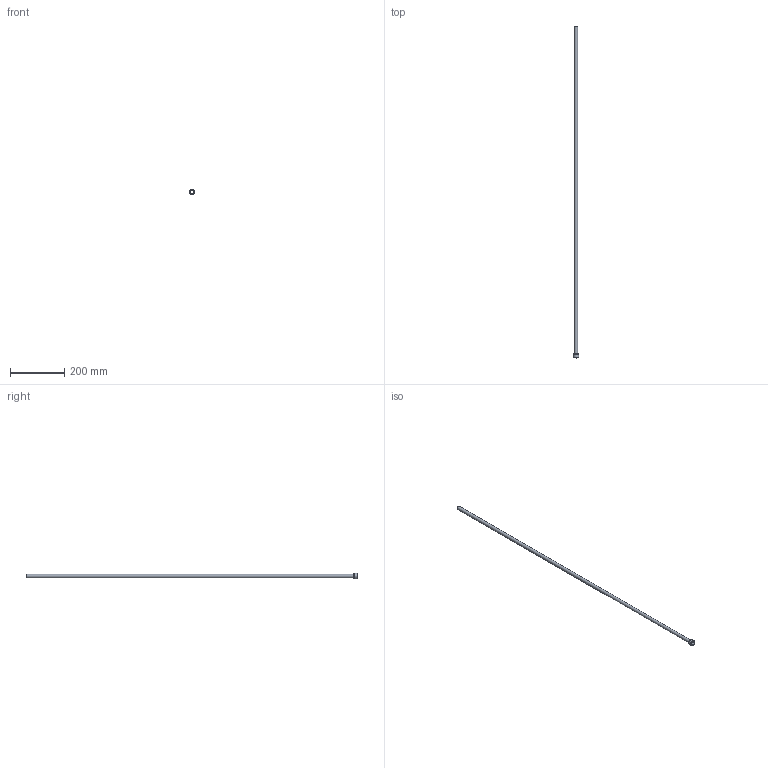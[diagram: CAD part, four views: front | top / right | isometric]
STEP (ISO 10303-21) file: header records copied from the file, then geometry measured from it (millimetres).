
FILE_DESCRIPTION(/* description */ (''),/* implementation_level */ '2;1');
FILE_NAME(/* name */ 'C:/Users/drich/Desktop/PT12-500-48 v2.step',/* time_stamp */ '2019-12-27T14:59:10-06:00',/* author */ (''),/* organization */ (''),/* preprocessor_version */ 'ST-DEVELOPER v18',/* originating_system */ 'Autodesk Translation Framework v8.12.0.6',/* authorisation */ '');
FILE_SCHEMA (('AUTOMOTIVE_DESIGN { 1 0 10303 214 3 1 1 }'));
Length unit declared in the file: inch
Products named in the file (1): PT12-500-48
Bounding box: 20.81 x 1219.2 x 20.81 mm (x, y, z)
Volume: 35138.1 mm3; surface area: 92672.7 mm2
Topology: 1 solids, 1 shells, 19 faces, 48 edges, 34 vertices
Faces by surface type: plane 11, cylinder 4, torus 2, cone 2
Full cylindrical faces by diameter (mm): 11.278 x1, 12.7 x1, 15.85 x1, 20.813 x1
Entity records: 633 total; most frequent: DIRECTION 112, CARTESIAN_POINT 102, ORIENTED_EDGE 96, EDGE_CURVE 48, AXIS2_PLACEMENT_3D 44, VERTEX_POINT 34, CIRCLE 24, EDGE_LOOP 24
